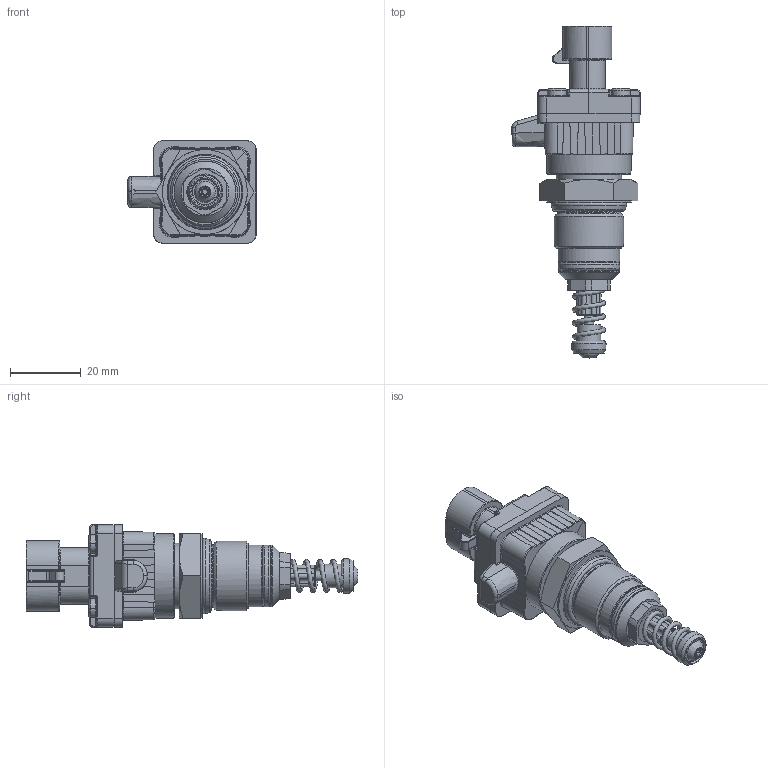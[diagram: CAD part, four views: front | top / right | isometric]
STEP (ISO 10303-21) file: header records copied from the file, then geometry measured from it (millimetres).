
FILE_DESCRIPTION((''),'2;1');
FILE_NAME('U:\Users\r.stiegele\30016600_DG060-30.stp', '2015-07-23T15:53:14',('User'),('SDRC'),'I-DEAS Master Series 9','UNIX', 'Yes');
FILE_SCHEMA(('AUTOMOTIVE_DESIGN { 1 0 10303 214 1 1 1 1 }'));
Length unit declared in the file: millimetre
Products named in the file (1): 30016600_DG060-30
Bounding box: 36.3 x 93.95 x 29 mm (x, y, z)
Volume: 28045.3 mm3; surface area: 10089 mm2
Topology: 1 solids, 3 shells, 980 faces, 2571 edges, 1615 vertices
Faces by surface type: bspline 980
Entity records: 40001 total; most frequent: CARTESIAN_POINT 25354, ORIENTED_EDGE 5108, EDGE_CURVE 2554, VERTEX_POINT 1612, B_SPLINE_CURVE_WITH_KNOTS 1555, EDGE_LOOP 1016, FACE_OUTER_BOUND 980, ADVANCED_FACE 980
